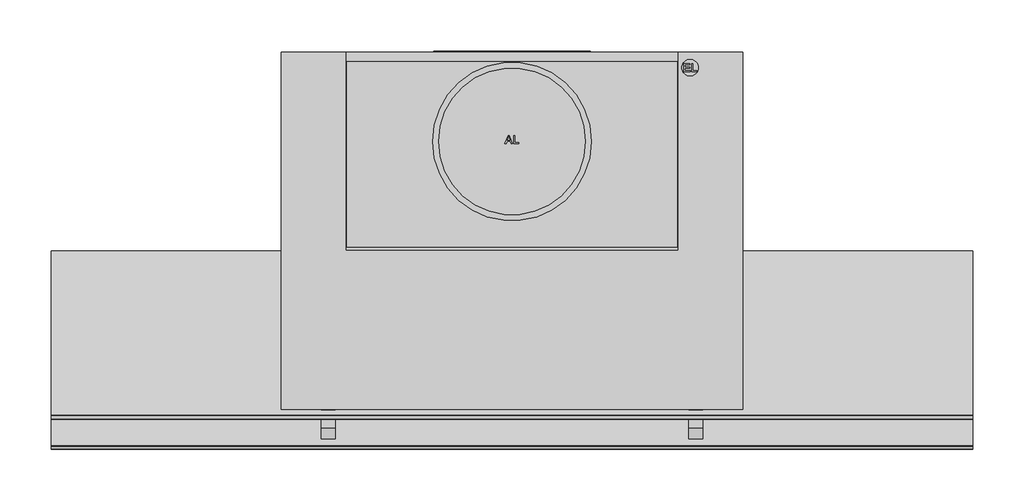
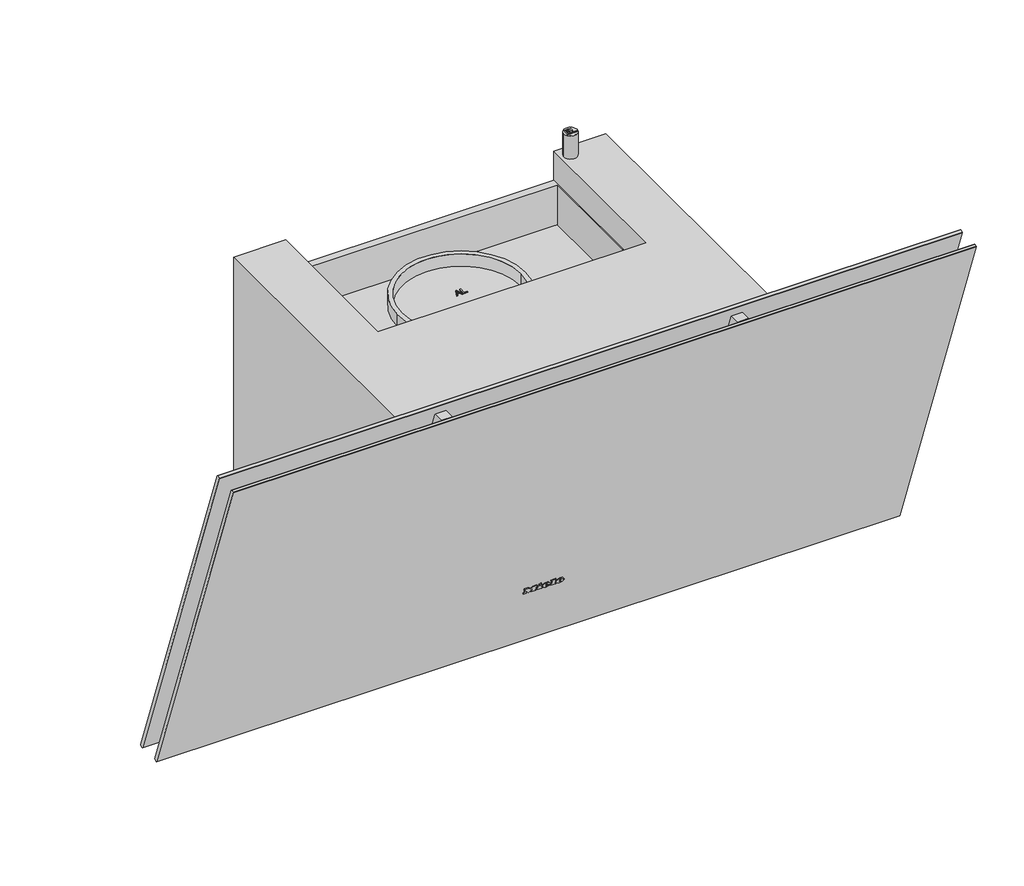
# Not in any storey: 1 proxy.
"""IFC4 building model written with IfcOpenShell, lengths in millimetres."""

import ifcopenshell
import ifcopenshell.guid

model = None  # the IFC model being written
_history = None  # IfcOwnerHistory: only IFC2X3 demands one
_inside = {}  # id of a spatial element -> (the spatial element, [elements in it])
_under = {}  # id of a project, library or spatial element -> (it, [spatial elements below it])
_declared = {}  # id of a project -> (the project, [libraries it declares])
_typed = {}  # id of a type object -> (the type object, [elements of that type])
_made_of = {}  # id of a material, layer set ... -> (it, [elements and type objects made of it])


def new_model(schema):
    """Start an empty IFC model of exactly this schema.

    Asked for "IFC4X3", IfcOpenShell would pick the latest addendum, in which some entities
    have other attributes; the version numbers below select the first issue.
    IFC2X3 requires an IfcOwnerHistory on every rooted entity: one is made here for all.
    """
    global model, _history
    if schema == "IFC4X3":
        model = ifcopenshell.file(schema_version=(4, 3, 0, 0))
    else:
        model = ifcopenshell.file(schema=schema)
    _inside.clear()
    _under.clear()
    _declared.clear()
    _typed.clear()
    _made_of.clear()
    _history = None
    if model.schema == "IFC2X3":
        org = make("IfcOrganization", Name="unknown")
        user = make(
            "IfcPersonAndOrganization",
            ThePerson=make("IfcPerson", FamilyName="unknown"),
            TheOrganization=org,
        )
        app = make(
            "IfcApplication",
            ApplicationDeveloper=org,
            Version="unknown",
            ApplicationFullName="unknown",
            ApplicationIdentifier="unknown",
        )
        _history = make(
            "IfcOwnerHistory",
            OwningUser=user,
            OwningApplication=app,
            ChangeAction="ADDED",
            CreationDate=0,
        )
    return model


def make(cls, **values):
    """One entity of the class cls with the attributes given. An attribute that is None is left unset."""
    return model.create_entity(
        cls, **{name: value for name, value in values.items() if value is not None}
    )


def rooted(cls, **values):
    """An entity with a GlobalId (a new one), such as an element, a storey or a relation."""
    return make(cls, GlobalId=ifcopenshell.guid.new(), OwnerHistory=_history, **values)


def si_unit(unit_type, name, prefix=None):
    """IfcSIUnit, for example si_unit("LENGTHUNIT", "METRE", prefix="MILLI")."""
    return make("IfcSIUnit", UnitType=unit_type, Prefix=prefix, Name=name)


def assignment(units):
    """IfcUnitAssignment: the units of a project."""
    return None if units is None else make("IfcUnitAssignment", Units=units)


def point(xyz):
    """IfcCartesianPoint."""
    return None if xyz is None else make("IfcCartesianPoint", Coordinates=xyz)


def direction(xyz):
    """IfcDirection."""
    return None if xyz is None else make("IfcDirection", DirectionRatios=xyz)


def frame(location, z_axis=None, x_axis=None):
    """IfcAxis2Placement3D, a coordinate frame: its origin and axes. An axis left out is left unset."""
    return make(
        "IfcAxis2Placement3D",
        Location=point(location),
        Axis=direction(z_axis),
        RefDirection=direction(x_axis),
    )


def frame_2d(location, x_axis=None):
    """IfcAxis2Placement2D, a coordinate frame in the plane: its origin and x axis."""
    return make(
        "IfcAxis2Placement2D", Location=point(location), RefDirection=direction(x_axis)
    )


def origin():
    """The frame at (0, 0, 0) with its axes left unset."""
    return frame((0.0, 0.0, 0.0))


def origin_with_axes():
    """The frame at (0, 0, 0) with the z axis (0, 0, 1) and the x axis (1, 0, 0) written out."""
    return frame((0.0, 0.0, 0.0), z_axis=(0.0, 0.0, 1.0), x_axis=(1.0, 0.0, 0.0))


def place(relative_to, where):
    """IfcLocalPlacement: puts the frame where relative to a parent placement (None: the world)."""
    return make(
        "IfcLocalPlacement", PlacementRelTo=relative_to, RelativePlacement=where
    )


def context(
    kind, dimensions, precision=None, world=None, true_north=None, identifier=None
):
    """IfcGeometricRepresentationContext, for example the 3D "Model" context."""
    return make(
        "IfcGeometricRepresentationContext",
        ContextIdentifier=identifier,
        ContextType=kind,
        CoordinateSpaceDimension=dimensions,
        Precision=precision,
        WorldCoordinateSystem=world,
        TrueNorth=true_north,
    )


def project(units=None, contexts=None):
    """IfcProject with its units and contexts."""
    return rooted(
        "IfcProject",
        Name="project",
        RepresentationContexts=contexts,
        UnitsInContext=assignment(units),
    )


def spatial(cls, under=None, at=None, **own):
    """A site, building, storey or space (cls), placed at a placement, below another one or the project."""
    s = rooted(cls, ObjectPlacement=at, **own)
    if under is not None:
        _under.setdefault(under.id(), (under, []))[1].append(s)
    return s


def polyline(points):
    """IfcPolyline through the points."""
    return make("IfcPolyline", Points=[point(p) for p in points])


def circle_curve(where, radius):
    """IfcCircle in the frame where."""
    return make("IfcCircle", Position=where, Radius=radius)


def ellipse_curve(where, semi_axis1, semi_axis2):
    """IfcEllipse in the frame where."""
    return make(
        "IfcEllipse", Position=where, SemiAxis1=semi_axis1, SemiAxis2=semi_axis2
    )


def trimmed(basis, trim1, trim2, sense, master):
    """IfcTrimmedCurve: the piece of a basis curve between two trims."""
    return make(
        "IfcTrimmedCurve",
        BasisCurve=basis,
        Trim1=trim1,
        Trim2=trim2,
        SenseAgreement=sense,
        MasterRepresentation=master,
    )


def segment(curve, same_sense, transition):
    """IfcCompositeCurveSegment."""
    return make(
        "IfcCompositeCurveSegment",
        Transition=transition,
        SameSense=same_sense,
        ParentCurve=curve,
    )


def composite_curve(segments, self_intersect=None):
    """IfcCompositeCurve: segments joined end to end."""
    return make("IfcCompositeCurve", Segments=segments, SelfIntersect=self_intersect)


def outline(outer, holes=None, kind="AREA"):
    """IfcArbitraryClosedProfileDef: a profile drawn as a closed curve; with holes, ...WithVoids."""
    if holes is None:
        return make("IfcArbitraryClosedProfileDef", ProfileType=kind, OuterCurve=outer)
    return make(
        "IfcArbitraryProfileDefWithVoids",
        ProfileType=kind,
        OuterCurve=outer,
        InnerCurves=holes,
    )


def extrude(swept, where, along, depth):
    """IfcExtrudedAreaSolid: the profile swept, set in the frame where, extruded along a direction by depth."""
    return make(
        "IfcExtrudedAreaSolid",
        SweptArea=swept,
        Position=where,
        ExtrudedDirection=direction(along),
        Depth=depth,
    )


def faces_of(points, faces, orient=None, outer=None):
    """IfcFace entities. A face is a list of loops; a loop is a list of indices into points, from 0.

    orient and outer hold one flag for each loop. By default every Orientation is true, the
    first loop of a face is its IfcFaceOuterBound and the others are IfcFaceBound.
    """
    made = []
    for i, loops in enumerate(faces):
        bounds = []
        for j, loop in enumerate(loops):
            is_outer = j == 0 if outer is None else outer[i][j]
            bounds.append(
                make(
                    "IfcFaceOuterBound" if is_outer else "IfcFaceBound",
                    Bound=make("IfcPolyLoop", Polygon=[points[k] for k in loop]),
                    Orientation=True if orient is None else orient[i][j],
                )
            )
        made.append(make("IfcFace", Bounds=bounds))
    return made


def faceted_brep(points, faces, orient=None, outer=None, voids=None):
    """IfcFacetedBrep: a solid bounded by flat faces; with voids (closed shells), ...WithVoids."""
    shared = [point(p) for p in points]
    hull = make("IfcClosedShell", CfsFaces=faces_of(shared, faces, orient, outer))
    if voids is None:
        return make("IfcFacetedBrep", Outer=hull)
    return make(
        "IfcFacetedBrepWithVoids",
        Outer=hull,
        Voids=[
            make(cls, CfsFaces=faces_of(shared, fs, o, b)) for cls, fs, o, b in voids
        ],
    )


def shape(context_of_items, identifier, shape_type, items):
    """IfcShapeRepresentation: the items that make up one representation, for example the "Body"."""
    return make(
        "IfcShapeRepresentation",
        ContextOfItems=context_of_items,
        RepresentationIdentifier=identifier,
        RepresentationType=shape_type,
        Items=items,
    )


def source(mapping_origin, context_of_items, identifier, shape_type, items):
    """IfcRepresentationMap: a shape defined once, which mapped items show again and again."""
    return make(
        "IfcRepresentationMap",
        MappingOrigin=mapping_origin,
        MappedRepresentation=shape(context_of_items, identifier, shape_type, items),
    )


def transform(
    local_origin,
    x_axis=None,
    y_axis=None,
    z_axis=None,
    scale=None,
    scale2=None,
    scale3=None,
    uniform=True,
):
    """IfcCartesianTransformationOperator3D, or its non-uniform kind. x_axis, y_axis, z_axis: its Axis1, 2, 3."""
    if uniform:
        return make(
            "IfcCartesianTransformationOperator3D",
            Axis1=direction(x_axis),
            Axis2=direction(y_axis),
            LocalOrigin=point(local_origin),
            Scale=scale,
            Axis3=direction(z_axis),
        )
    return make(
        "IfcCartesianTransformationOperator3DnonUniform",
        Axis1=direction(x_axis),
        Axis2=direction(y_axis),
        LocalOrigin=point(local_origin),
        Scale=scale,
        Axis3=direction(z_axis),
        Scale2=scale2,
        Scale3=scale3,
    )


def mapped(mapping_source, mapping_target):
    """IfcMappedItem: shows the shape of a source again, moved by a transform."""
    return make(
        "IfcMappedItem", MappingSource=mapping_source, MappingTarget=mapping_target
    )


def made_of(thing, what):
    """Note that an element or type object is made of a material, layer set ...; save() writes the relation."""
    if what is not None:
        _made_of.setdefault(what.id(), (what, []))[1].append(thing)
    return thing


def element(
    cls,
    number,
    at=None,
    inside=None,
    cuts=None,
    type_object=None,
    material=None,
    context=None,
    identifier="Body",
    shape_type=None,
    held_by="IfcProductDefinitionShape",
    body=None,
    shapes=None,
    **own,
):
    """One element of the class cls, such as IfcWall. Its Tag is "e" and its number.

    at: its placement. inside: the storey or other place that contains it. cuts: it is an
    opening in that element (IfcRelVoidsElement). A single representation is given by context,
    identifier, shape_type and body (its items); several are given by shapes. held_by: the class
    of the entity that holds the representations. save() writes the other relations.
    """
    e = rooted(cls, Tag="e%d" % number, ObjectPlacement=at, **own)
    if body is not None:
        shapes = [shape(context, identifier, shape_type, body)]
    if shapes is not None:
        e.Representation = make(held_by, Representations=shapes)
    if inside is not None:
        _inside.setdefault(inside.id(), (inside, []))[1].append(e)
    if cuts is not None:
        rooted(
            "IfcRelVoidsElement", RelatingBuildingElement=cuts, RelatedOpeningElement=e
        )
    if type_object is not None:
        _typed.setdefault(type_object.id(), (type_object, []))[1].append(e)
    return made_of(e, material)


def aggregate(whole, parts):
    """IfcRelAggregates: a whole, such as a stair, and the parts it consists of."""
    return rooted("IfcRelAggregates", RelatingObject=whole, RelatedObjects=parts)


def save(model, path):
    """Write the relations noted so far, then the file.

    IfcRelAggregates (storeys below a building ...), IfcRelContainedInSpatialStructure (elements
    in a storey), IfcRelDefinesByType, IfcRelAssociatesMaterial and IfcRelDeclares: one each for
    every whole, place, type object, material and project.
    """
    for whole, parts in _under.values():
        aggregate(whole, parts)
    for where, things in _inside.values():
        rooted(
            "IfcRelContainedInSpatialStructure",
            RelatedElements=things,
            RelatingStructure=where,
        )
    for kind, things in _typed.values():
        rooted("IfcRelDefinesByType", RelatedObjects=things, RelatingType=kind)
    for what, things in _made_of.values():
        rooted("IfcRelAssociatesMaterial", RelatedObjects=things, RelatingMaterial=what)
    for by, libraries in _declared.values():
        rooted("IfcRelDeclares", RelatingContext=by, RelatedDefinitions=libraries)
    model.write(path)


def plane_surface(at):
    """IfcPlane: the flat surface through the origin of the frame at, square to its z axis."""
    return make("IfcPlane", Position=at)


def cylinder_surface(at, radius):
    """IfcCylindricalSurface: all points at the distance radius from the z axis of the frame at."""
    return make("IfcCylindricalSurface", Position=at, Radius=radius)


def revolved_surface(curve, axis_point, axis_direction):
    """IfcSurfaceOfRevolution: the curve turned about the line through axis_point along axis_direction."""
    return make(
        "IfcSurfaceOfRevolution",
        SweptCurve=make("IfcArbitraryOpenProfileDef", ProfileType="CURVE", Curve=curve),
        AxisPosition=make("IfcAxis1Placement", Location=point(axis_point), Axis=direction(axis_direction)),
    )


def extruded_surface(curve, direction_of_extrusion, depth):
    """IfcSurfaceOfLinearExtrusion: the curve pushed along a direction by depth."""
    return make(
        "IfcSurfaceOfLinearExtrusion",
        SweptCurve=make("IfcArbitraryOpenProfileDef", ProfileType="CURVE", Curve=curve),
        ExtrudedDirection=direction(direction_of_extrusion),
        Depth=depth,
    )


def advanced_brep(points, edges, surfaces, faces):
    """IfcAdvancedBrep: a solid bounded by faces that lie on surfaces and meet in shared edges.

    An edge is (start, end): straight between two places in points (the first is 0);
    or (start, end, curve); or (start, end, curve, False) where it runs against its curve.
    A face is (place in surfaces, loops), or (place, loops, False) where it looks against
    its surface's normal. A loop lists edges by number (the first is 1), with a minus sign
    where the edge is run from its end to its start. The first loop is the outer one.
    """
    corners = [point(p) for p in points]
    vertices = [make("IfcVertexPoint", VertexGeometry=c) for c in corners]
    made = []
    for start, end, *more in edges:
        made.append(
            make(
                "IfcEdgeCurve",
                EdgeStart=vertices[start],
                EdgeEnd=vertices[end],
                EdgeGeometry=more[0] if more else make("IfcPolyline", Points=[corners[start], corners[end]]),
                SameSense=more[1] if len(more) > 1 else True,
            )
        )
    hull = []
    for where, loops, *sense in faces:
        bounds = []
        for j, loop in enumerate(loops):
            ring = [make("IfcOrientedEdge", EdgeElement=made[abs(k) - 1], Orientation=k > 0) for k in loop]
            bounds.append(
                make(
                    "IfcFaceOuterBound" if j == 0 else "IfcFaceBound",
                    Bound=make("IfcEdgeLoop", EdgeList=ring),
                    Orientation=True,
                )
            )
        hull.append(make("IfcAdvancedFace", Bounds=bounds, FaceSurface=surfaces[where], SameSense=sense[0] if sense else True))
    return make("IfcAdvancedBrep", Outer=make("IfcClosedShell", CfsFaces=hull))


def specialty_equipment_28f42fde(model_context):
    return source(origin(), model_context, "Body", "SolidModel", [
        extrude(outline(polyline([(0.0, 0.0), (0.968, 0.0), (0.968, 5.352), (0.0, 5.352), (0.0, 6.696), (3.52, 6.696), (3.52, 5.352), (2.56, 5.352), (2.56, 1.9488753), (6.136, 6.696), (9.728, 1.8807777), (9.728, 5.352), (8.744, 5.352), (8.744, 6.696), (15.128, 6.696), (15.128, 5.352), (14.112, 5.352), (14.112, 0.0), (15.128, 0.0), (15.128, -1.304), (10.256, -1.304), (7.92, 1.696), (5.576, -1.304), (0.0, -1.304), (0.0, 0.0)])), frame((-24.271984, -261.1380975, 82.2921818), z_axis=(0.0, 0.9396926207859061, 0.34202014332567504), x_axis=(1.0, 0.0, 0.0)), (0.0, 0.0, 1.0), 1.0),
        extrude(outline(polyline([(0.0, 0.0), (0.96, 0.0), (0.96, 5.352), (0.0, 5.352), (0.0, 6.696), (6.488, 6.696), (6.488, 5.352), (5.504, 5.352), (5.504, -1.304), (0.0, -1.304), (0.0, 0.0)])), frame((8.192016, -261.1380975, 82.2921818), z_axis=(0.0, 0.9396926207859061, 0.34202014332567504), x_axis=(1.0, 0.0, 0.0)), (0.0, 0.0, 1.0), 1.0),
        extrude(outline(polyline([(0.0, 0.0), (1.4315306, 0.0), (1.4390414, -2.9920869), (0.0109086, -2.9993294), (0.0, 0.0)])), frame((-6.351984, -261.4226582, 83.074006), z_axis=(0.0, 0.9396926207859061, 0.342020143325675), x_axis=(0.42472021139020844, 0.30963927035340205, -0.8507269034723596)), (0.0, 0.0, 1.0), 1.0),
        extrude(outline(polyline([(0.4933907, 2.4141097), (1.7898156, 3.022309), (2.1941493, 2.1604399), (5.1636141, 3.5535222), (4.7592805, 4.4153913), (5.9760369, 4.9862153), (8.6568708, -0.728194), (7.4401145, -1.299018), (7.0459741, -0.4588767), (2.7800843, -2.4601583), (0.4933907, 2.4141097)])), frame((-6.351984, -261.4226582, 83.074006), z_axis=(0.0, 0.9396926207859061, 0.342020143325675), x_axis=(0.42472021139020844, 0.30963927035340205, -0.8507269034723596)), (0.0, 0.0, 1.0), 1.0),
        advanced_brep(
        [(2.392016, -259.4964008, 77.7816572), (2.392016, -259.7727531, 78.5409288), (7.744016, -259.7727531, 78.5409288), (-1.567984, -259.7727531, 78.5409288), (0.632016, -258.8479306, 76.0), (7.608016, -259.4964008, 77.7816572), (5.192016, -259.4964008, 77.7816572), (3.288016, -259.1899507, 76.9396926), (2.392016, -260.1229817, 79.5031741), (2.392016, -260.4212233, 80.3225861), (3.760016, -260.4212233, 80.3225861), (3.760016, -260.1229817, 79.5031741), (2.392016, -258.5567082, 78.1236774), (3.288016, -258.2502581, 77.2817128), (5.192016, -258.5567082, 78.1236774), (7.608016, -258.5567082, 78.1236774), (0.632016, -257.908238, 76.3420201), (-1.567984, -258.8330604, 78.882949), (7.744016, -258.8330604, 78.882949), (2.392016, -258.8330604, 78.882949), (2.392016, -259.1832891, 79.8451942), (3.760016, -259.1832891, 79.8451942), (3.760016, -259.4815306, 80.6646062), (2.392016, -259.4815306, 80.6646062)],
        [
            (0, 1),
            (1, 2),
            (2, 3, ellipse_curve(frame((3.088016, -259.7727531, 78.5409288), z_axis=(0.0, -0.9396926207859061, -0.34202014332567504), x_axis=(-1.0, 0.0, 0.0)), 4.656, 3.848)),
            (3, 4, circle_curve(frame((1.5280596, -259.8657825, 78.7965252), z_axis=(0.0, -0.9396926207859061, -0.34202014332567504), x_axis=(0.0, 0.34202014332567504, -0.9396926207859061)), 3.1079688)),
            (4, 5, circle_curve(frame((2.9948096, -260.5881291, 80.7811561), z_axis=(0.0, -0.9396926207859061, -0.34202014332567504), x_axis=(0.0, 0.34202014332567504, -0.9396926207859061)), 5.6098607)),
            (5, 6),
            (6, 7, circle_curve(frame((3.6790748, -259.7508638, 78.4807885), z_axis=(0.0, 0.9396926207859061, 0.34202014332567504), x_axis=(0.0, 0.34202014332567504, -0.9396926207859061)), 1.6859795)),
            (7, 0, circle_curve(frame((3.288016, -259.4964008, 77.7816572), z_axis=(0.0, 0.9396926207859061, 0.34202014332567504), x_axis=(0.0, 0.34202014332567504, -0.9396926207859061)), 0.896)),
            (8, 9),
            (9, 10, circle_curve(frame((3.076016, -260.4212233, 80.3225861), z_axis=(0.0, 0.9396926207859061, 0.34202014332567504), x_axis=(0.0, 0.34202014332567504, -0.9396926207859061)), 0.684)),
            (10, 11),
            (11, 8),
            (12, 13, circle_curve(frame((3.288016, -258.5567082, 78.1236774), z_axis=(0.0, -0.9396926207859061, -0.34202014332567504), x_axis=(0.0, 0.34202014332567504, -0.9396926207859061)), 0.896)),
            (13, 14, circle_curve(frame((3.6790748, -258.8111712, 78.8228087), z_axis=(0.0, -0.9396926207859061, -0.34202014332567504), x_axis=(0.0, 0.34202014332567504, -0.9396926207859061)), 1.6859795)),
            (14, 15),
            (15, 16, circle_curve(frame((2.9948096, -259.6484365, 81.1231762), z_axis=(0.0, 0.9396926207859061, 0.34202014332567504), x_axis=(0.0, 0.34202014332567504, -0.9396926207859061)), 5.6098607)),
            (16, 17, circle_curve(frame((1.5280596, -258.9260899, 79.1385454), z_axis=(0.0, 0.9396926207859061, 0.34202014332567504), x_axis=(0.0, 0.34202014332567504, -0.9396926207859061)), 3.1079688)),
            (17, 18, ellipse_curve(frame((3.088016, -258.8330604, 78.882949), z_axis=(0.0, 0.9396926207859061, 0.34202014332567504), x_axis=(-1.0, 0.0, 0.0)), 4.656, 3.848)),
            (18, 19),
            (19, 12),
            (20, 21),
            (21, 22),
            (22, 23, circle_curve(frame((3.076016, -259.4815306, 80.6646062), z_axis=(0.0, -0.9396926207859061, -0.34202014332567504), x_axis=(0.0, 0.34202014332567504, -0.9396926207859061)), 0.684)),
            (23, 20),
            (0, 12),
            (19, 1),
            (18, 2),
            (5, 15),
            (14, 6),
            (17, 3),
            (13, 7),
            (16, 4),
            (8, 20),
            (23, 9),
            (22, 10),
            (21, 11),
        ],
        [
            plane_surface(frame((2.392016, -259.7727531, 78.5409288), z_axis=(0.0, -0.9396926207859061, -0.34202014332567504), x_axis=(0.0, -0.34202014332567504, 0.9396926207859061))),
            plane_surface(frame((2.392016, -258.8330604, 78.882949), z_axis=(0.0, 0.9396926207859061, 0.34202014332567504), x_axis=(0.0, 0.34202014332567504, -0.9396926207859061))),
            plane_surface(frame((2.392016, -259.4964008, 77.7816572), z_axis=(1.0, 0.0, 0.0), x_axis=(0.0, 0.9396926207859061, 0.34202014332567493))),
            plane_surface(frame((2.392016, -259.7727531, 78.5409288), z_axis=(0.0, 0.34202014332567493, -0.9396926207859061), x_axis=(0.0, 0.9396926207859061, 0.34202014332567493))),
            plane_surface(frame((7.608016, -259.4964008, 77.7816572), z_axis=(0.0, -0.34202014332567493, 0.9396926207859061), x_axis=(0.0, 0.9396926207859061, 0.34202014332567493))),
            extruded_surface(trimmed(ellipse_curve(frame((3.088016, -257.8933678, 79.2249691), z_axis=(0.0, -0.9396926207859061, -0.34202014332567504), x_axis=(-1.0, 0.0, 0.0)), 4.656, 3.848), [point((7.744016, -257.8933678, 79.2249691))], [point((-1.567984, -257.8933678, 79.2249691))], True, "CARTESIAN"), (0.0, -0.9396926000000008, -0.34202009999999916), 0.9999999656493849),
            revolved_surface(polyline([(3.6790748, -258.2345321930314, 77.23850622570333), (3.6790748, -259.1742248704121, 76.89648606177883)]), (3.6790748, -258.8111712, 78.8228087), (0.0, 0.9396926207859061, 0.34202014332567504)),
            revolved_surface(polyline([(3.288016, -258.25025810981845, 77.28171282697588), (3.288016, -259.1899507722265, 76.93969266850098)]), (3.288016, -258.5567082, 78.1236774), (0.0, 0.9396926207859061, 0.34202014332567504)),
            cylinder_surface(frame((1.5280596, -258.9260899, 79.1385454), z_axis=(0.0, -0.9396926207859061, -0.34202014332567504), x_axis=(0.0, 0.34202014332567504, -0.9396926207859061)), 3.1079688),
            cylinder_surface(frame((2.9948096, -259.6484365, 81.1231762), z_axis=(0.0, -0.9396926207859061, -0.34202014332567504), x_axis=(0.0, 0.34202014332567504, -0.9396926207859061)), 5.6098607),
            plane_surface(frame((2.392016, -260.1229817, 79.5031741), z_axis=(1.0, 0.0, 0.0), x_axis=(0.0, 0.9396926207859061, 0.34202014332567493))),
            revolved_surface(polyline([(3.076016, -259.2475888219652, 80.02185644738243), (3.076016, -260.1872814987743, 79.67983628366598)]), (3.076016, -259.4815306, 80.6646062), (0.0, 0.9396926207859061, 0.34202014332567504)),
            plane_surface(frame((3.760016, -260.4212233, 80.3225861), z_axis=(-1.0, 0.0, 0.0), x_axis=(0.0, 0.9396926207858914, 0.3420201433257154))),
            plane_surface(frame((3.760016, -260.1229817, 79.5031741), z_axis=(0.0, -0.34202014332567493, 0.9396926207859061), x_axis=(0.0, 0.9396926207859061, 0.34202014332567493))),
        ],
        [
            (0, [[1, 2, 3, 4, 5, 6, 7, 8], [9, 10, 11, 12]]),
            (1, [[13, 14, 15, 16, 17, 18, 19, 20], [21, 22, 23, 24]]),
            (2, [[-1, 25, -20, 26]]),
            (3, [[-2, -26, -19, 27]]),
            (4, [[-6, 28, -15, 29]]),
            (5, [[-3, -27, -18, 30]]),
            (6, [[-7, -29, -14, 31]]),
            (7, [[-8, -31, -13, -25]]),
            (8, [[-4, -30, -17, 32]]),
            (9, [[-5, -32, -16, -28]]),
            (10, [[-9, 33, -24, 34]]),
            (11, [[-10, -34, -23, 35]]),
            (12, [[-11, -35, -22, 36]]),
            (13, [[-12, -36, -21, -33]]),
        ],
    ),
        advanced_brep(
        [(19.088016, -259.4964008, 77.7816572), (19.088016, -259.7727531, 78.5409288), (24.440016, -259.7727531, 78.5409288), (15.128016, -259.7727531, 78.5409288), (17.328016, -258.8479306, 76.0), (24.304016, -259.4964008, 77.7816572), (21.888016, -259.4964008, 77.7816572), (19.984016, -259.1899507, 76.9396926), (19.088016, -260.1229817, 79.5031741), (19.088016, -260.4212233, 80.3225861), (20.456016, -260.4212233, 80.3225861), (20.456016, -260.1229817, 79.5031741), (19.088016, -258.5567082, 78.1236774), (19.984016, -258.2502581, 77.2817128), (21.888016, -258.5567082, 78.1236774), (24.304016, -258.5567082, 78.1236774), (17.328016, -257.908238, 76.3420201), (15.128016, -258.8330604, 78.882949), (24.440016, -258.8330604, 78.882949), (19.088016, -258.8330604, 78.882949), (19.088016, -259.1832891, 79.8451942), (20.456016, -259.1832891, 79.8451942), (20.456016, -259.4815306, 80.6646062), (19.088016, -259.4815306, 80.6646062)],
        [
            (0, 1),
            (1, 2),
            (2, 3, ellipse_curve(frame((19.784016, -259.7727531, 78.5409288), z_axis=(0.0, -0.9396926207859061, -0.34202014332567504), x_axis=(-1.0, 0.0, 0.0)), 4.656, 3.848)),
            (3, 4, circle_curve(frame((18.2240596, -259.8657825, 78.7965252), z_axis=(0.0, -0.9396926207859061, -0.34202014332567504), x_axis=(0.0, 0.34202014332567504, -0.9396926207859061)), 3.1079688)),
            (4, 5, circle_curve(frame((19.6908096, -260.5881291, 80.7811561), z_axis=(0.0, -0.9396926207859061, -0.34202014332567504), x_axis=(0.0, 0.34202014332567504, -0.9396926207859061)), 5.6098607)),
            (5, 6),
            (6, 7, circle_curve(frame((20.3750748, -259.7508638, 78.4807885), z_axis=(0.0, 0.9396926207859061, 0.34202014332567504), x_axis=(0.0, 0.34202014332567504, -0.9396926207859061)), 1.6859795)),
            (7, 0, circle_curve(frame((19.984016, -259.4964008, 77.7816572), z_axis=(0.0, 0.9396926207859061, 0.34202014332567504), x_axis=(0.0, 0.34202014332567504, -0.9396926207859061)), 0.896)),
            (8, 9),
            (9, 10, circle_curve(frame((19.772016, -260.4212233, 80.3225861), z_axis=(0.0, 0.9396926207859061, 0.34202014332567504), x_axis=(0.0, 0.34202014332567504, -0.9396926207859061)), 0.684)),
            (10, 11),
            (11, 8),
            (12, 13, circle_curve(frame((19.984016, -258.5567082, 78.1236774), z_axis=(0.0, -0.9396926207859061, -0.34202014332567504), x_axis=(0.0, 0.34202014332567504, -0.9396926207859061)), 0.896)),
            (13, 14, circle_curve(frame((20.3750748, -258.8111712, 78.8228087), z_axis=(0.0, -0.9396926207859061, -0.34202014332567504), x_axis=(0.0, 0.34202014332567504, -0.9396926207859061)), 1.6859795)),
            (14, 15),
            (15, 16, circle_curve(frame((19.6908096, -259.6484365, 81.1231762), z_axis=(0.0, 0.9396926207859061, 0.34202014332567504), x_axis=(0.0, 0.34202014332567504, -0.9396926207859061)), 5.6098607)),
            (16, 17, circle_curve(frame((18.2240596, -258.9260899, 79.1385454), z_axis=(0.0, 0.9396926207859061, 0.34202014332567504), x_axis=(0.0, 0.34202014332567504, -0.9396926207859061)), 3.1079688)),
            (17, 18, ellipse_curve(frame((19.784016, -258.8330604, 78.882949), z_axis=(0.0, 0.9396926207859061, 0.34202014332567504), x_axis=(-1.0, 0.0, 0.0)), 4.656, 3.848)),
            (18, 19),
            (19, 12),
            (20, 21),
            (21, 22),
            (22, 23, circle_curve(frame((19.772016, -259.4815306, 80.6646062), z_axis=(0.0, -0.9396926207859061, -0.34202014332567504), x_axis=(0.0, 0.34202014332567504, -0.9396926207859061)), 0.684)),
            (23, 20),
            (0, 12),
            (19, 1),
            (18, 2),
            (5, 15),
            (14, 6),
            (17, 3),
            (13, 7),
            (16, 4),
            (8, 20),
            (23, 9),
            (22, 10),
            (21, 11),
        ],
        [
            plane_surface(frame((19.088016, -259.7727531, 78.5409288), z_axis=(0.0, -0.9396926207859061, -0.34202014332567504), x_axis=(0.0, -0.34202014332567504, 0.9396926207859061))),
            plane_surface(frame((19.088016, -258.8330604, 78.882949), z_axis=(0.0, 0.9396926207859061, 0.34202014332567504), x_axis=(0.0, 0.34202014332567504, -0.9396926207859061))),
            plane_surface(frame((19.088016, -259.4964008, 77.7816572), z_axis=(1.0, 0.0, 0.0), x_axis=(0.0, 0.9396926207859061, 0.34202014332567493))),
            plane_surface(frame((19.088016, -259.7727531, 78.5409288), z_axis=(0.0, 0.34202014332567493, -0.9396926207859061), x_axis=(0.0, 0.9396926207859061, 0.34202014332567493))),
            plane_surface(frame((24.304016, -259.4964008, 77.7816572), z_axis=(0.0, -0.34202014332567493, 0.9396926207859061), x_axis=(0.0, 0.9396926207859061, 0.34202014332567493))),
            extruded_surface(trimmed(ellipse_curve(frame((19.784016, -257.8933678, 79.2249691), z_axis=(0.0, -0.9396926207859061, -0.34202014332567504), x_axis=(-1.0, 0.0, 0.0)), 4.656, 3.848), [point((24.440016, -257.8933678, 79.2249691))], [point((15.128016, -257.8933678, 79.2249691))], True, "CARTESIAN"), (0.0, -0.9396926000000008, -0.34202009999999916), 0.9999999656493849),
            revolved_surface(polyline([(20.3750748, -258.2345321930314, 77.23850622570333), (20.3750748, -259.1742248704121, 76.89648606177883)]), (20.3750748, -258.8111712, 78.8228087), (0.0, 0.9396926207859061, 0.34202014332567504)),
            revolved_surface(polyline([(19.984016, -258.25025810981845, 77.28171282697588), (19.984016, -259.1899507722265, 76.93969266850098)]), (19.984016, -258.5567082, 78.1236774), (0.0, 0.9396926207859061, 0.34202014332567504)),
            cylinder_surface(frame((18.2240596, -258.9260899, 79.1385454), z_axis=(0.0, -0.9396926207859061, -0.34202014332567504), x_axis=(0.0, 0.34202014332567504, -0.9396926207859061)), 3.1079688),
            cylinder_surface(frame((19.6908096, -259.6484365, 81.1231762), z_axis=(0.0, -0.9396926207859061, -0.34202014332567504), x_axis=(0.0, 0.34202014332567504, -0.9396926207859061)), 5.6098607),
            plane_surface(frame((19.088016, -260.1229817, 79.5031741), z_axis=(1.0, 0.0, 0.0), x_axis=(0.0, 0.9396926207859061, 0.34202014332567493))),
            revolved_surface(polyline([(19.772016, -259.2475888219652, 80.02185644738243), (19.772016, -260.1872814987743, 79.67983628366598)]), (19.772016, -259.4815306, 80.6646062), (0.0, 0.9396926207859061, 0.34202014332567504)),
            plane_surface(frame((20.456016, -260.4212233, 80.3225861), z_axis=(-1.0, 0.0, 0.0), x_axis=(0.0, 0.9396926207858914, 0.3420201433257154))),
            plane_surface(frame((20.456016, -260.1229817, 79.5031741), z_axis=(0.0, -0.34202014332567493, 0.9396926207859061), x_axis=(0.0, 0.9396926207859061, 0.34202014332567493))),
        ],
        [
            (0, [[1, 2, 3, 4, 5, 6, 7, 8], [9, 10, 11, 12]]),
            (1, [[13, 14, 15, 16, 17, 18, 19, 20], [21, 22, 23, 24]]),
            (2, [[-1, 25, -20, 26]]),
            (3, [[-2, -26, -19, 27]]),
            (4, [[-6, 28, -15, 29]]),
            (5, [[-3, -27, -18, 30]]),
            (6, [[-7, -29, -14, 31]]),
            (7, [[-8, -31, -13, -25]]),
            (8, [[-4, -30, -17, 32]]),
            (9, [[-5, -32, -16, -28]]),
            (10, [[-9, 33, -24, 34]]),
            (11, [[-10, -34, -23, 35]]),
            (12, [[-11, -35, -22, 36]]),
            (13, [[-12, -36, -21, -33]]),
        ],
    ),
        advanced_brep(
        [(-198.5, -225.9485265, 82.132138), (-198.5, -235.8911369, 109.4492355), (-198.5, -230.9198317, 95.7906867), (-198.5, -231.2422284, 80.5173231), (-198.5, -240.9843308, 107.2835295), (-198.5, -250.514978, 76.8365225), (-198.5, -258.1140866, 97.7149017), (-198.5, -251.4164577, 77.3487429), (-198.5, -258.4754112, 96.7430581), (-198.5, -254.9459345, 87.0459005)],
        [
            (0, 1, circle_curve(frame((-198.5, -230.9198317, 95.7906867), z_axis=(0.0, 0.9396926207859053, 0.3420201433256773), x_axis=(0.0, -0.3420201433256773, 0.9396926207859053)), 14.535124)),
            (1, 2),
            (2, 0),
            (1, 0, circle_curve(frame((-198.5, -230.9198317, 95.7906867), z_axis=(0.0, 0.9396926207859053, 0.3420201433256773), x_axis=(0.0, -0.3420201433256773, 0.9396926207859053)), 14.535124)),
            (3, 4, circle_curve(frame((-198.5, -236.1132796, 93.9004263), z_axis=(0.0, 0.9396926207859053, 0.3420201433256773), x_axis=(0.0, -0.3420201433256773, 0.9396926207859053)), 14.2420009)),
            (4, 1),
            (0, 3),
            (4, 3, circle_curve(frame((-198.5, -236.1132796, 93.9004263), z_axis=(0.0, 0.9396926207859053, 0.3420201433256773), x_axis=(0.0, -0.3420201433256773, 0.9396926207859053)), 14.2420009)),
            (5, 6, circle_curve(frame((-198.5, -254.3145323, 87.2757121), z_axis=(0.0, 0.9396926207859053, 0.3420201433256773), x_axis=(0.0, -0.3420201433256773, 0.9396926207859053)), 11.1091535)),
            (6, 4),
            (3, 5),
            (6, 5, circle_curve(frame((-198.5, -254.3145323, 87.2757121), z_axis=(0.0, 0.9396926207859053, 0.3420201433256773), x_axis=(0.0, -0.3420201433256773, 0.9396926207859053)), 11.1091535)),
            (7, 8, circle_curve(frame((-198.5, -254.9459345, 87.0459005), z_axis=(0.0, 0.9396926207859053, 0.3420201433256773), x_axis=(0.0, -0.3420201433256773, 0.9396926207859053)), 10.3194996)),
            (8, 6),
            (5, 7),
            (8, 7, circle_curve(frame((-198.5, -254.9459345, 87.0459005), z_axis=(0.0, 0.9396926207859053, 0.3420201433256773), x_axis=(0.0, -0.3420201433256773, 0.9396926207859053)), 10.3194996)),
            (9, 8),
            (7, 9),
        ],
        [
            plane_surface(frame((-198.5, -230.9198317, 95.7906867), z_axis=(0.0, 0.9396926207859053, 0.3420201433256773), x_axis=(0.0, -0.3420201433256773, 0.9396926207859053))),
            revolved_surface(polyline([(-198.5, -235.8312261, 109.4708926), (-198.5, -240.9843308, 107.2835295)]), (-198.5, -255.2773841, 86.9252627), (0.0, -0.9396926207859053, -0.3420201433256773)),
            revolved_surface(polyline([(-198.5, -240.9843308, 107.2835295), (-198.5, -258.1140866, 97.7149017)]), (-198.5, -255.2773841, 86.9252627), (0.0, -0.9396926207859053, -0.3420201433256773)),
            revolved_surface(polyline([(-198.5, -258.1140866, 97.7149017), (-198.5, -258.4754112, 96.7430581)]), (-198.5, -255.2773841, 86.9252627), (0.0, -0.9396926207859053, -0.3420201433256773)),
            plane_surface(frame((-198.5, -254.9459345, 87.0459005), z_axis=(0.0, -0.9396926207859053, -0.3420201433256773), x_axis=(0.0, -0.3420201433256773, 0.9396926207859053))),
        ],
        [
            (0, [[1, 2, 3]]),
            (0, [[4, -3, -2]]),
            (1, [[5, 6, -1, 7]]),
            (1, [[8, -7, -4, -6]]),
            (2, [[9, 10, -5, 11]]),
            (2, [[12, -11, -8, -10]]),
            (3, [[13, 14, -9, 15]]),
            (3, [[16, -15, -12, -14]]),
            (4, [[17, -13, 18]]),
            (4, [[-18, -16, -17]]),
        ],
    ),
        advanced_brep(
        [(-198.5, -249.4001153, 68.4387353), (-198.5, -262.8067778, 105.2732379), (-198.5, -257.0531232, 93.8737841), (-198.5, -252.3199878, 80.8696014), (-198.5, -250.699917, 68.232867), (-198.5, -263.9348133, 104.5954458), (-198.5, -257.3173652, 86.4141564), (-198.5, -254.6865555, 87.3716928)],
        [
            (0, 1, circle_curve(frame((-198.5, -256.1034466, 86.8559866), z_axis=(0.0, 0.9396926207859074, 0.34202014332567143), x_axis=(0.0, -0.34202014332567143, 0.9396926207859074)), 19.5992294)),
            (1, 2),
            (2, 3, circle_curve(frame((-198.5, -254.6865555, 87.3716928), z_axis=(0.0, -0.9396926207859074, -0.34202014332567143), x_axis=(0.0, -0.34202014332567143, 0.9396926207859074)), 6.9193811)),
            (3, 0),
            (1, 0, circle_curve(frame((-198.5, -256.1034466, 86.8559866), z_axis=(0.0, 0.9396926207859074, 0.34202014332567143), x_axis=(0.0, -0.34202014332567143, 0.9396926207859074)), 19.5992294)),
            (3, 2, circle_curve(frame((-198.5, -254.6865555, 87.3716928), z_axis=(0.0, -0.9396926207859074, -0.34202014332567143), x_axis=(0.0, -0.34202014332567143, 0.9396926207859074)), 6.9193811)),
            (4, 5, circle_curve(frame((-198.5, -257.3173652, 86.4141564), z_axis=(0.0, 0.9396926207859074, 0.34202014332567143), x_axis=(0.0, -0.34202014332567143, 0.9396926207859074)), 19.3481241)),
            (5, 1),
            (0, 4),
            (5, 4, circle_curve(frame((-198.5, -257.3173652, 86.4141564), z_axis=(0.0, 0.9396926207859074, 0.34202014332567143), x_axis=(0.0, -0.34202014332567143, 0.9396926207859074)), 19.3481241)),
            (6, 5),
            (4, 6),
            (2, 7),
            (7, 3),
        ],
        [
            revolved_surface(polyline([(-198.5, -257.0531232, 93.8737841), (-198.5, -262.8067778, 105.2732379)]), (-198.5, -254.6865555, 87.3716928), (0.0, -0.9396926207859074, -0.34202014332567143)),
            revolved_surface(polyline([(-198.5, -262.8067778, 105.2732379), (-198.5, -263.9348133, 104.5954458)]), (-198.5, -254.6865555, 87.3716928), (0.0, -0.9396926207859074, -0.34202014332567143)),
            plane_surface(frame((-198.5, -257.3173652, 86.4141564), z_axis=(0.0, -0.9396926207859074, -0.34202014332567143), x_axis=(0.0, -0.34202014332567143, 0.9396926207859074))),
            plane_surface(frame((-198.5, -254.6865555, 87.3716928), z_axis=(0.0, 0.9396926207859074, 0.34202014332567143), x_axis=(0.0, -0.34202014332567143, 0.9396926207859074))),
        ],
        [
            (0, [[1, 2, 3, 4]]),
            (0, [[5, -4, 6, -2]]),
            (1, [[7, 8, -1, 9]]),
            (1, [[10, -9, -5, -8]]),
            (2, [[11, -7, 12]]),
            (2, [[-12, -10, -11]]),
            (3, [[-3, 13, 14]]),
            (3, [[-6, -14, -13]]),
        ],
    ),
        advanced_brep(
        [(198.5, -230.9018417, 95.8650227), (198.5, -235.8509293, 109.4625291), (198.5, -225.9091808, 82.1477994), (198.5, -240.9843308, 107.2835295), (198.5, -231.2422284, 80.5173231), (198.5, -258.1140866, 97.7149017), (198.5, -250.514978, 76.8365225), (198.5, -258.4754112, 96.7430581), (198.5, -251.4164577, 77.3487429), (198.5, -254.9459345, 87.0459005)],
        [
            (0, 1),
            (1, 2, circle_curve(frame((198.5, -230.8800551, 95.8051643), z_axis=(0.0, 0.9396926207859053, 0.3420201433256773), x_axis=(0.0, -0.3420201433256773, 0.9396926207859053)), 14.5338641)),
            (2, 0),
            (2, 1, circle_curve(frame((198.5, -230.8800551, 95.8051643), z_axis=(0.0, 0.9396926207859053, 0.3420201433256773), x_axis=(0.0, -0.3420201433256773, 0.9396926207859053)), 14.5338641)),
            (1, 3),
            (3, 4, circle_curve(frame((198.5, -236.1132796, 93.9004263), z_axis=(0.0, 0.9396926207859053, 0.3420201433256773), x_axis=(0.0, -0.3420201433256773, 0.9396926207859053)), 14.2420009)),
            (4, 2),
            (4, 3, circle_curve(frame((198.5, -236.1132796, 93.9004263), z_axis=(0.0, 0.9396926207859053, 0.3420201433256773), x_axis=(0.0, -0.3420201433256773, 0.9396926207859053)), 14.2420009)),
            (3, 5),
            (5, 6, circle_curve(frame((198.5, -254.3145323, 87.2757121), z_axis=(0.0, 0.9396926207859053, 0.3420201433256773), x_axis=(0.0, -0.3420201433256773, 0.9396926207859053)), 11.1091535)),
            (6, 4),
            (6, 5, circle_curve(frame((198.5, -254.3145323, 87.2757121), z_axis=(0.0, 0.9396926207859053, 0.3420201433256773), x_axis=(0.0, -0.3420201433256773, 0.9396926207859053)), 11.1091535)),
            (5, 7),
            (7, 8, circle_curve(frame((198.5, -254.9459345, 87.0459005), z_axis=(0.0, 0.9396926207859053, 0.3420201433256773), x_axis=(0.0, -0.3420201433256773, 0.9396926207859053)), 10.3194996)),
            (8, 6),
            (8, 7, circle_curve(frame((198.5, -254.9459345, 87.0459005), z_axis=(0.0, 0.9396926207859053, 0.3420201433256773), x_axis=(0.0, -0.3420201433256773, 0.9396926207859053)), 10.3194996)),
            (7, 9),
            (9, 8),
        ],
        [
            plane_surface(frame((198.5, -230.8800551, 95.8051643), z_axis=(0.0, 0.9396926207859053, 0.3420201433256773), x_axis=(0.0, -0.3420201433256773, 0.9396926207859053))),
            revolved_surface(polyline([(198.5, -240.9843308, 107.2835295), (198.5, -235.8509293, 109.4625291)]), (198.5, -255.2773841, 86.9252627), (0.0, 0.9396926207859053, 0.3420201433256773)),
            revolved_surface(polyline([(198.5, -258.1140866, 97.7149017), (198.5, -240.9843308, 107.2835295)]), (198.5, -255.2773841, 86.9252627), (0.0, 0.9396926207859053, 0.3420201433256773)),
            revolved_surface(polyline([(198.5, -258.4754112, 96.7430581), (198.5, -258.1140866, 97.7149017)]), (198.5, -255.2773841, 86.9252627), (0.0, 0.9396926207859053, 0.3420201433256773)),
            plane_surface(frame((198.5, -254.9459345, 87.0459005), z_axis=(0.0, -0.9396926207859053, -0.3420201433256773), x_axis=(0.0, -0.3420201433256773, 0.9396926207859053))),
        ],
        [
            (0, [[1, 2, 3]]),
            (0, [[-3, 4, -1]]),
            (1, [[-2, 5, 6, 7]]),
            (1, [[-4, -7, 8, -5]]),
            (2, [[-6, 9, 10, 11]]),
            (2, [[-8, -11, 12, -9]]),
            (3, [[-10, 13, 14, 15]]),
            (3, [[-12, -15, 16, -13]]),
            (4, [[-14, 17, 18]]),
            (4, [[-16, -18, -17]]),
        ],
    ),
        advanced_brep(
        [(198.5, -252.3199878, 80.8696014), (198.5, -257.0531232, 93.8737841), (198.5, -262.8067778, 105.2732379), (198.5, -249.4001153, 68.4387353), (198.5, -263.9348133, 104.5954458), (198.5, -250.699917, 68.232867), (198.5, -257.3173652, 86.4141564), (198.5, -254.6865555, 87.3716928)],
        [
            (0, 1, circle_curve(frame((198.5, -254.6865555, 87.3716928), z_axis=(0.0, -0.9396926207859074, -0.34202014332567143), x_axis=(0.0, -0.34202014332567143, 0.9396926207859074)), 6.9193811)),
            (1, 2),
            (2, 3, circle_curve(frame((198.5, -256.1034466, 86.8559866), z_axis=(0.0, 0.9396926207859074, 0.34202014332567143), x_axis=(0.0, -0.34202014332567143, 0.9396926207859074)), 19.5992294)),
            (3, 0),
            (1, 0, circle_curve(frame((198.5, -254.6865555, 87.3716928), z_axis=(0.0, -0.9396926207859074, -0.34202014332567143), x_axis=(0.0, -0.34202014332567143, 0.9396926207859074)), 6.9193811)),
            (3, 2, circle_curve(frame((198.5, -256.1034466, 86.8559866), z_axis=(0.0, 0.9396926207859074, 0.34202014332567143), x_axis=(0.0, -0.34202014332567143, 0.9396926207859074)), 19.5992294)),
            (2, 4),
            (4, 5, circle_curve(frame((198.5, -257.3173652, 86.4141564), z_axis=(0.0, 0.9396926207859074, 0.34202014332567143), x_axis=(0.0, -0.34202014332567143, 0.9396926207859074)), 19.3481241)),
            (5, 3),
            (5, 4, circle_curve(frame((198.5, -257.3173652, 86.4141564), z_axis=(0.0, 0.9396926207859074, 0.34202014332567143), x_axis=(0.0, -0.34202014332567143, 0.9396926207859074)), 19.3481241)),
            (4, 6),
            (6, 5),
            (7, 1),
            (0, 7),
        ],
        [
            revolved_surface(polyline([(198.5, -262.8067778, 105.2732379), (198.5, -257.0531232, 93.8737841)]), (198.5, -254.6865555, 87.3716928), (0.0, 0.9396926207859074, 0.34202014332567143)),
            revolved_surface(polyline([(198.5, -263.9348133, 104.5954458), (198.5, -262.8067778, 105.2732379)]), (198.5, -254.6865555, 87.3716928), (0.0, 0.9396926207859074, 0.34202014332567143)),
            plane_surface(frame((198.5, -257.3173652, 86.4141564), z_axis=(0.0, -0.9396926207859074, -0.34202014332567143), x_axis=(0.0, -0.34202014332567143, 0.9396926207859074))),
            plane_surface(frame((198.5, -254.6865555, 87.3716928), z_axis=(0.0, 0.9396926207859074, 0.34202014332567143), x_axis=(0.0, -0.34202014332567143, 0.9396926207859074))),
        ],
        [
            (0, [[1, 2, 3, 4]]),
            (0, [[5, -4, 6, -2]]),
            (1, [[-3, 7, 8, 9]]),
            (1, [[-6, -9, 10, -7]]),
            (2, [[-8, 11, 12]]),
            (2, [[-10, -12, -11]]),
            (3, [[13, -1, 14]]),
            (3, [[-14, -5, -13]]),
        ],
    ),
        extrude(outline(polyline([(-377.2541471, 415.9959153), (-366.2530147, 420.0), (-348.8949883, 420.0), (-315.0686278, 327.0628384), (-321.2276447, 324.8211395), (-334.9582954, 325.4920509), (-347.6637142, 334.6968691), (-377.2541471, 415.9959153)])), frame((-185.7167767, 0.0, 0.0), z_axis=(1.0, 0.0, 0.0), x_axis=(0.0, 1.0, 0.0)), (0.0, 0.0, 1.0), 13.4088513),
        extrude(outline(polyline([(-377.2541471, 415.9959153), (-366.2530147, 420.0), (-348.8949883, 420.0), (-315.0686278, 327.0628384), (-321.2276447, 324.8211395), (-334.9582954, 325.4920509), (-347.6637142, 334.6968691), (-377.2541471, 415.9959153)])), frame((172.3079253, 0.0, 0.0), z_axis=(1.0, 0.0, 0.0), x_axis=(0.0, 1.0, 0.0)), (0.0, 0.0, 1.0), 13.4088513),
        extrude(outline(polyline([(-387.1323401, 432.8365045), (-384.310791, 433.8634644), (-383.5944926, 433.4158714), (-223.2772642, -7.0520936), (-223.5613092, -7.7920563), (-226.3696341, -8.8142029), (-227.0596169, -8.4158411), (-387.3899893, 432.0882368), (-387.1323401, 432.8365045)])), frame((-449.0, 0.0, 0.0), z_axis=(1.0, 0.0, 0.0), x_axis=(0.0, 1.0, 0.0)), (0.0, 0.0, 1.0), 898.0),
        extrude(outline(polyline([(-357.7500767, 432.8365045), (-354.6517562, 433.9642009), (-353.7790899, 433.4190033), (-193.5484199, -6.8114741), (-193.8719465, -7.7304916), (-196.9340313, -8.8449984), (-197.6773535, -8.4158411), (-358.007726, 432.0882368), (-357.7500767, 432.8365045)])), frame((-449.0, 0.0, 0.0), z_axis=(1.0, 0.0, 0.0), x_axis=(0.0, 1.0, 0.0)), (0.0, 0.0, 1.0), 898.0),
        extrude(outline(polyline([(-287.1198024, 229.753659), (-287.6205942, 218.2841221), (-296.0848836, 210.5280081), (-301.7042998, 208.4827078), (-327.3688694, 278.9955333), (-319.9071972, 281.7113599), (-309.7792372, 280.1072486), (-302.5107089, 272.039827), (-287.1198024, 229.753659)])), frame((182.9499624, 0.0, 0.0), z_axis=(1.0, 0.0, 0.0), x_axis=(0.0, 1.0, 0.0)), (0.0, 0.0, 1.0), 3.1163744),
        extrude(outline(composite_curve([segment(trimmed(circle_curve(frame_2d((0.0, -6.0)), 6.0), [point((0.0, -12.0))], [point((0.0, 0.0))], False, "CARTESIAN"), True, "CONTINUOUS"), segment(trimmed(circle_curve(frame_2d((0.0, -6.0)), 6.0), [point((0.0, 0.0))], [point((0.0, -12.0))], False, "CARTESIAN"), True, "CONTINUOUS")], self_intersect=False)), frame((198.4796168, -304.9287055, 251.8746642), z_axis=(0.0, -0.3420201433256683, 0.9396926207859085), x_axis=(0.0, -0.9396926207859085, -0.3420201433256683)), (0.0, 0.0, 1.0), 126.121517),
        faceted_brep([(225.0000193, -349.0, 420.0), (225.0000193, -196.2332597, 0.0), (225.0000193, 0.0, 0.0), (225.0000193, 0.0, 420.0), (-225.0000193, -349.0, 420.0), (-225.0000193, 0.0, 420.0), (-225.0000193, 0.0, 0.0), (-225.0000193, -196.2332597, 0.0), (176.5, -48.0, 0.0), (-176.5, -48.0, 0.0), (-176.5, -181.0, 0.0), (176.5, -181.0, 0.0), (125.0, -12.0, 0.0), (-125.0, -12.0, 0.0), (-125.0, -38.0, 0.0), (125.0, -38.0, 0.0), (-162.2229137, 0.0, 420.0), (-162.2229137, 0.0, 382.5), (162.2229137, 0.0, 382.5), (162.2229137, 0.0, 420.0), (-160.9556997, -9.0, 332.0), (160.9556997, -9.0, 332.0), (160.9556997, -9.0, 382.5), (-160.9556997, -9.0, 382.5), (-160.9556997, -190.0399284, 332.0), (-160.9556997, -190.0399284, 382.5), (160.9556997, -190.0399284, 332.0), (160.9556997, -190.0399284, 382.5), (176.5, -48.0, 11.0), (-176.5, -48.0, 11.0), (125.0, -12.0, 11.0), (-125.0, -12.0, 11.0), (162.2229137, -193.2332597, 420.0), (-162.2229137, -193.2332597, 420.0), (176.5, -181.0, 11.0), (-176.5, -181.0, 11.0), (125.0, -38.0, 11.0), (-125.0, -38.0, 11.0), (162.2229137, -193.2332597, 382.5), (-162.2229137, -193.2332597, 382.5)], [[[0, 1, 2, 3]], [[4, 5, 6, 7]], [[1, 0, 4, 7]], [[2, 1, 7, 6], [8, 9, 10, 11], [12, 13, 14, 15]], [[3, 2, 6, 5, 16, 17, 18, 19]], [[20, 21, 22, 23]], [[24, 20, 23, 25]], [[21, 26, 27, 22]], [[28, 29, 9, 8]], [[30, 31, 13, 12]], [[0, 3, 19, 32, 33, 16, 5, 4]], [[21, 20, 24, 26]], [[26, 24, 25, 27]], [[28, 34, 35, 29]], [[29, 35, 10, 9]], [[35, 34, 11, 10]], [[34, 28, 8, 11]], [[30, 36, 37, 31]], [[31, 37, 14, 13]], [[37, 36, 15, 14]], [[36, 30, 12, 15]], [[32, 38, 39, 33]], [[39, 38, 18, 17], [23, 22, 27, 25]], [[38, 32, 19, 18]], [[33, 39, 17, 16]]]),
        extrude(outline(polyline([(125.0, -12.0), (125.0, -38.0), (-125.0, -38.0), (-125.0, -12.0), (125.0, -12.0)]), holes=[polyline([(-119.0, -31.2), (119.0, -31.2), (119.0, -18.8), (-119.0, -18.8), (-119.0, -31.2)])]), origin_with_axes(), (0.0, 0.0, 1.0), 11.0),
        extrude(outline(polyline([(119.0, -18.8), (119.0, -31.2), (-119.0, -31.2), (-119.0, -18.8), (119.0, -18.8)])), origin_with_axes(), (0.0, 0.0, 1.0), 11.0),
        extrude(outline(polyline([(176.5, -48.0), (176.5, -181.0), (-176.5, -181.0), (-176.5, -48.0), (176.5, -48.0)]), holes=[polyline([(167.5, -57.0), (-167.5, -57.0), (-167.5, -172.0), (167.5, -172.0), (167.5, -57.0)])]), origin_with_axes(), (0.0, 0.0, 1.0), 11.0),
        extrude(outline(polyline([(167.5, -57.0), (167.5, -172.0), (-167.5, -172.0), (-167.5, -57.0), (167.5, -57.0)])), frame((0.0, 0.0, 1.0), z_axis=(0.0, 0.0, 1.0), x_axis=(1.0, 0.0, 0.0)), (0.0, 0.0, 1.0), 10.0),
        extrude(outline(polyline([(-167.5, -98.0), (-124.5000193, -98.0), (-124.5000193, -131.0), (-167.5, -131.0), (-167.5, -98.0)]), holes=[polyline([(-131.0000193, -104.5), (-160.0000193, -104.5), (-160.0000193, -124.5), (-131.0000193, -124.5), (-131.0000193, -104.5)])]), origin_with_axes(), (0.0, 0.0, 1.0), 1.0),
        extrude(outline(polyline([(-131.0000193, -104.5), (-131.0000193, -124.5), (-140.0000193, -124.5), (-140.0000193, -104.5), (-131.0000193, -104.5)])), origin_with_axes(), (0.0, 0.0, 1.0), 1.0),
        extrude(outline(composite_curve([segment(trimmed(circle_curve(frame_2d((0.0, -86.9971466)), 77.2963157), [point((-77.2963157, -86.9971466))], [point((77.2963157, -86.9971466))], False, "CARTESIAN"), True, "CONTINUOUS"), segment(trimmed(circle_curve(frame_2d((0.0, -86.9971466)), 77.2963157), [point((77.2963157, -86.9971466))], [point((-77.2963157, -86.9971466))], False, "CARTESIAN"), True, "CONTINUOUS")], self_intersect=False), holes=[composite_curve([segment(trimmed(circle_curve(frame_2d((0.0, -86.9971466)), 71.617422), [point((-71.617422, -86.9971466))], [point((71.617422, -86.9971466))], True, "CARTESIAN"), True, "CONTINUOUS"), segment(trimmed(circle_curve(frame_2d((0.0, -86.9971466)), 71.617422), [point((71.617422, -86.9971466))], [point((-71.617422, -86.9971466))], True, "CARTESIAN"), True, "CONTINUOUS")], self_intersect=False)]), frame((0.0, 0.0, 332.0), z_axis=(0.0, 0.0, 1.0), x_axis=(1.0, 0.0, 0.0)), (0.0, 0.0, 1.0), 15.9326282),
        extrude(outline(polyline([(-6.835738, -89.2416424), (-3.627807, -81.2051375), (-2.7723587, -81.2051375), (0.4336102, -89.2416424), (-0.6278519, -89.2416424), (-1.5460854, -86.7302346), (-4.8580044, -86.7302346), (-5.7762378, -89.2416424), (-6.835738, -89.2416424)]), holes=[polyline([(-4.4891414, -85.7256715), (-1.9129864, -85.7256715), (-2.6389402, -83.7498999), (-3.2020449, -82.2097006), (-3.7023644, -83.5772407), (-4.4891414, -85.7256715)])]), frame((0.0, 0.0, 347.9326282), z_axis=(0.0, 0.0, 1.0), x_axis=(1.0, 0.0, 0.0)), (0.0, 0.0, 1.0), 1.0),
        extrude(outline(polyline([(1.5068447, -89.2416424), (1.5068447, -81.2051375), (2.5114078, -81.2051375), (2.5114078, -88.2370793), (6.5296602, -88.2370793), (6.5296602, -89.2416424), (1.5068447, -89.2416424)])), frame((0.0, 0.0, 347.9326282), z_axis=(0.0, 0.0, 1.0), x_axis=(1.0, 0.0, 0.0)), (0.0, 0.0, 1.0), 1.0),
        extrude(outline(composite_curve([segment(trimmed(circle_curve(frame_2d((192.5519409, 0.0)), 76.1990432), [point((192.5519409, -76.1990432))], [point((192.5519409, 76.1990432))], False, "CARTESIAN"), True, "CONTINUOUS"), segment(trimmed(circle_curve(frame_2d((192.5519409, 0.0)), 76.1990432), [point((192.5519409, 76.1990432))], [point((192.5519409, -76.1990432))], False, "CARTESIAN"), True, "CONTINUOUS")], self_intersect=False)), frame((0.0, 0.0, 0.0), z_axis=(0.0, 1.0, 0.0), x_axis=(0.0, 0.0, 1.0)), (0.0, 0.0, 1.0), 1.0),
        extrude(outline(composite_curve([segment(trimmed(circle_curve(frame_2d((173.4999807, -15.0000005)), 8.0), [point((165.4999807, -15.0000005))], [point((181.4999807, -15.0000005))], False, "CARTESIAN"), True, "CONTINUOUS"), segment(trimmed(circle_curve(frame_2d((173.4999807, -15.0000005)), 8.0), [point((181.4999807, -15.0000005))], [point((165.4999807, -15.0000005))], False, "CARTESIAN"), True, "CONTINUOUS")], self_intersect=False)), frame((0.0, 0.0, 420.0), z_axis=(0.0, 0.0, 1.0), x_axis=(1.0, 0.0, 0.0)), (0.0, 0.0, 1.0), 30.0),
        extrude(outline(polyline([(167.5981725, -19.0000005), (167.5981725, -10.9634957), (173.3744104, -10.9634957), (173.3744104, -11.9680588), (168.6027356, -11.9680588), (168.6027356, -14.3538961), (173.1232696, -14.3538961), (173.1232696, -15.3584592), (168.6027356, -15.3584592), (168.6027356, -17.9954374), (173.4999807, -17.9954374), (173.4999807, -19.0000005), (167.5981725, -19.0000005)])), frame((0.0, 0.0, 450.0), z_axis=(0.0, 0.0, 1.0), x_axis=(1.0, 0.0, 0.0)), (0.0, 0.0, 1.0), 1.0),
        extrude(outline(polyline([(175.0068254, -19.0000005), (175.0068254, -10.9634957), (176.0113885, -10.9634957), (176.0113885, -17.9954374), (180.0296409, -17.9954374), (180.0296409, -19.0000005), (175.0068254, -19.0000005)])), frame((0.0, 0.0, 450.0), z_axis=(0.0, 0.0, 1.0), x_axis=(1.0, 0.0, 0.0)), (0.0, 0.0, 1.0), 1.0),
    ])


model = new_model("IFC4")

# Units and contexts
model_context = context("Model", 3, world=origin())
ifc_project = project(units=[si_unit("LENGTHUNIT", "METRE", prefix="MILLI")], contexts=[model_context])

# Site, building
site = spatial("IfcSite", under=ifc_project)
building = spatial("IfcBuilding", under=site)

# Proxy
placement = place(None, origin())
specialty_equipment_shape = specialty_equipment_28f42fde(model_context)
element("IfcBuildingElementProxy", 1, Name="12559410_NER_DAH2960_GRGR : 28H2960G_NER_12559410_DAH2960_GRGR", ObjectType="12559410_NER_DAH2960_GRGR : 28H2960G_NER_12559410_DAH2960_GRGR", at=placement, inside=building, context=model_context, shape_type="MappedRepresentation", body=[
    mapped(specialty_equipment_shape, transform((0.0, 0.0, 0.0), x_axis=(1.0, 0.0, 0.0), y_axis=(0.0, 1.0, 0.0), z_axis=(0.0, 0.0, 1.0))),
])

save(model, "model.ifc")
